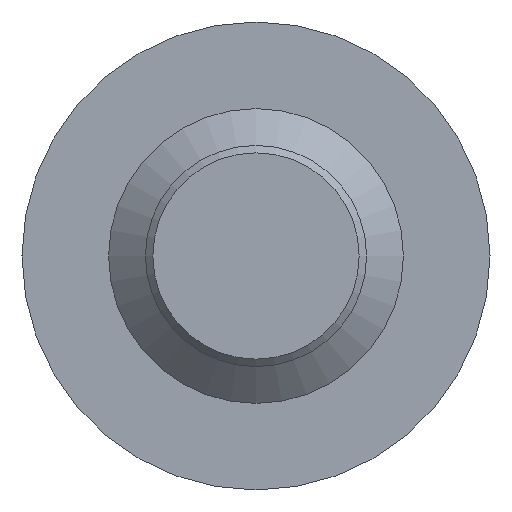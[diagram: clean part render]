
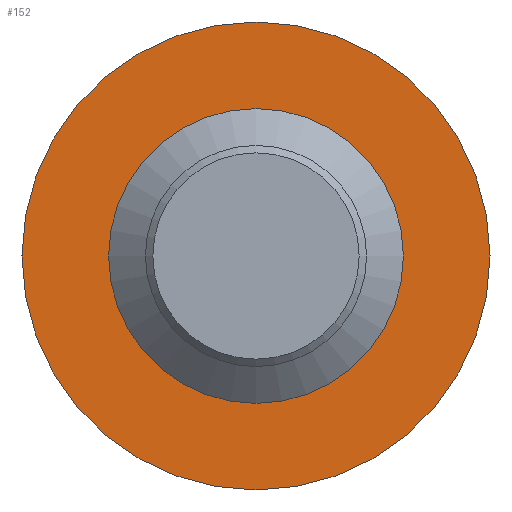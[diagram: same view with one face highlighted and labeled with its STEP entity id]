
A CAD part, front view. The second image highlights one B-rep face of the part: STEP entity #152.
In plain terms, the highlighted planar face has unit normal (0, -1, 0).
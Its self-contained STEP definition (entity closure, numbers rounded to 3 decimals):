
#15=FACE_BOUND('',#57,.T.);
#21=PLANE('',#195);
#45=FACE_OUTER_BOUND('',#56,.T.);
#56=EDGE_LOOP('',(#129));
#57=EDGE_LOOP('',(#130));
#67=CIRCLE('',#186,6.35);
#72=CIRCLE('',#196,3.35);
#79=VERTEX_POINT('',#270);
#84=VERTEX_POINT('',#288);
#93=EDGE_CURVE('',#79,#79,#67,.T.);
#100=EDGE_CURVE('',#84,#84,#72,.T.);
#129=ORIENTED_EDGE('',*,*,#93,.F.);
#130=ORIENTED_EDGE('',*,*,#100,.F.);
#152=ADVANCED_FACE('',(#45,#15),#21,.F.);
#186=AXIS2_PLACEMENT_3D('',#272,#219,#220);
#195=AXIS2_PLACEMENT_3D('',#287,#239,#240);
#196=AXIS2_PLACEMENT_3D('',#289,#241,#242);
#219=DIRECTION('center_axis',(0.,1.,0.));
#220=DIRECTION('ref_axis',(1.,0.,0.));
#239=DIRECTION('center_axis',(0.,1.,0.));
#240=DIRECTION('ref_axis',(0.,0.,1.));
#241=DIRECTION('center_axis',(0.,-1.,0.));
#242=DIRECTION('ref_axis',(1.,0.,0.));
#270=CARTESIAN_POINT('',(-6.35,17.5,0.));
#272=CARTESIAN_POINT('Origin',(0.,17.5,0.));
#287=CARTESIAN_POINT('Origin',(0.,17.5,0.));
#288=CARTESIAN_POINT('',(-3.35,17.5,0.));
#289=CARTESIAN_POINT('Origin',(0.,17.5,0.));
